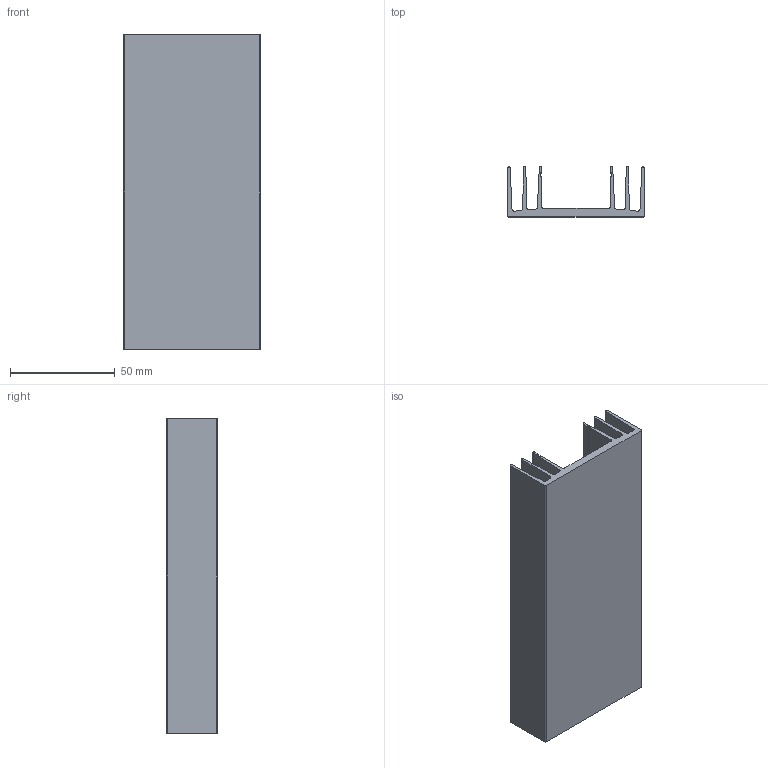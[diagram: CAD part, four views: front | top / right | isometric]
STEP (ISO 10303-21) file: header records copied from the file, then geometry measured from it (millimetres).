
FILE_DESCRIPTION (( 'STEP AP203' ), '1' );
FILE_NAME ('PR 40-150.step', '2002-10-21T08:53:08', ( 'Wolfgang Müller' ), ( 'DPS' ), 'SwSTEP 2.0', 'SolidWorks 2002264', '' );
FILE_SCHEMA (( 'CONFIG_CONTROL_DESIGN' ));
Length unit declared in the file: millimetre
Products named in the file (1): PR 40-150
Bounding box: 65 x 24 x 150 mm (x, y, z)
Volume: 63179.8 mm3; surface area: 56883.2 mm2
Topology: 1 solids, 1 shells, 46 faces, 132 edges, 88 vertices
Faces by surface type: plane 28, cylinder 18
Entity records: 1589 total; most frequent: CARTESIAN_POINT 267, ORIENTED_EDGE 264, DIRECTION 262, EDGE_CURVE 132, LINE 96, VECTOR 96, VERTEX_POINT 88, AXIS2_PLACEMENT_3D 83
